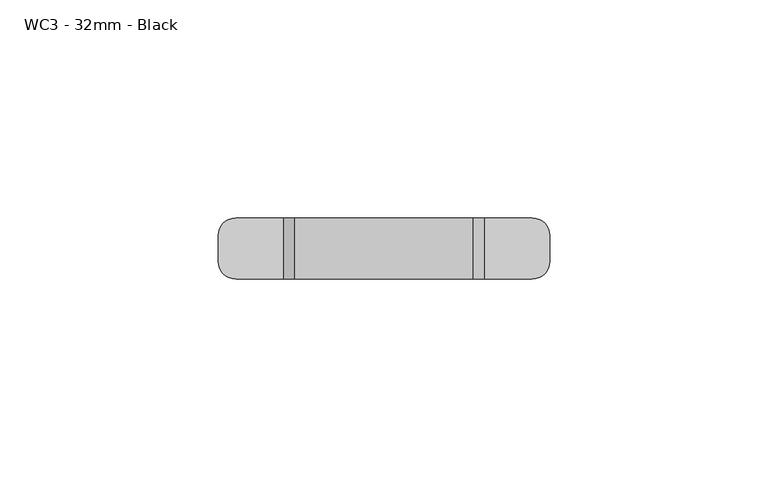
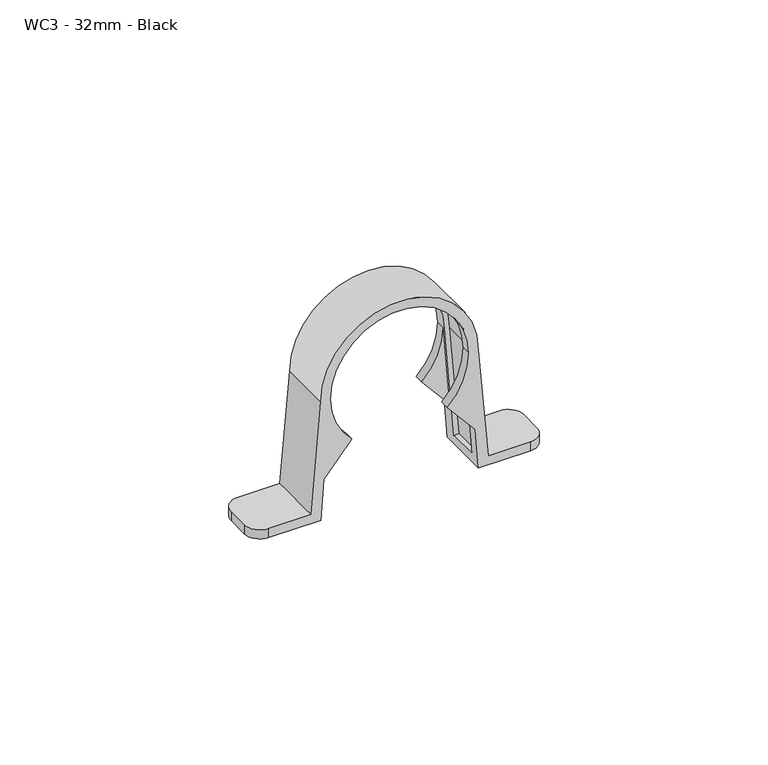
"""IFC4 building model written with IfcOpenShell, lengths in millimetres: pipe fitting geometry, MarleyPlumbingAndDrainage_PipeFitting_SaddlePipeClip : WC3 - 32mm - Black."""

from ifc_helpers import new_model, si_unit, frame, origin, place, context, project, spatial, polyline, circle_curve, source, transform, mapped, element, save
from ifc_brep_helpers import plane_surface, cylinder_surface, revolved_surface, advanced_brep


def wc3_32mm_black_cb145518(model_context):
    return source(origin(), model_context, "Body", "AdvancedBrep", [
        advanced_brep(
        [(5.7150936, -7.0, -30.0), (3.2150936, -7.0, 0.0), (-37.7849064, -7.0, 0.0), (-40.2849064, -7.0, -30.0), (-51.2849064, -7.0, -30.0), (-51.2849064, -7.0, -32.5), (-37.7849064, -7.0, -32.5), (-36.9459788, -7.0, -21.5939411), (-29.734806, -7.0, -13.0), (-35.2849064, -7.0, 0.0), (0.7150936, -7.0, 0.0), (-4.8350068, -7.0, -13.0), (2.376166, -7.0, -21.5939411), (3.2150936, -7.0, -32.5), (16.7150936, -7.0, -32.5), (16.7150936, -7.0, -30.0), (-40.2849064, 7.0, -30.0), (-37.7849064, 7.0, 0.0), (3.2150936, 7.0, 0.0), (5.7150936, 7.0, -30.0), (16.7150936, 7.0, -30.0), (16.7150936, 7.0, -32.5), (3.2150936, 7.0, -32.5), (2.376166, 7.0, -21.5939411), (-4.8350068, 7.0, -13.0), (0.7150936, 7.0, 0.0), (-35.2849064, 7.0, 0.0), (-29.734806, 7.0, -13.0), (-36.9459788, 7.0, -21.5939411), (-37.7849064, 7.0, -32.5), (-51.2849064, 7.0, -32.5), (-51.2849064, 7.0, -30.0), (-39.0349064, 3.8, -30.0), (-36.5349064, 3.8, 0.0), (-36.5349064, -4.5, 0.0), (-39.0349064, -4.5, -30.0), (1.9650936, 3.8, 0.0), (1.9650936, -4.5, 0.0), (4.4650936, 3.8, -30.0), (4.4650936, -4.5, -30.0), (5.7150936, -4.5, -30.0), (5.7150936, 3.8, -30.0), (3.2150936, 3.8, 0.0), (3.2150936, -4.5, 0.0), (-37.7849064, 3.8, 0.0), (-37.7849064, -4.5, 0.0), (-40.2849064, 3.8, -30.0), (-40.2849064, -4.5, -30.0), (-35.2849064, 3.8, 0.0), (0.7150936, 3.8, 0.0), (3.0227859, 3.8, -30.0), (-37.5925987, 3.8, -30.0), (20.7150936, 3.0, -32.5), (20.7150936, -3.0, -32.5), (-55.2849064, -3.0, -32.5), (-55.2849064, 3.0, -32.5), (-35.2849064, 4.5, 0.0), (-37.5925987, -4.5, -30.0), (-36.9459788, -4.5, -21.5939411), (-36.9459788, 4.5, -21.5939411), (0.7150936, 4.5, 0.0), (2.376166, 4.5, -21.5939411), (2.376166, -4.5, -21.5939411), (3.0227859, -4.5, -30.0), (-29.734806, 4.5, -13.0), (-4.8350068, 4.5, -13.0), (-35.2849064, -4.5, 0.0), (-29.734806, -4.5, -13.0), (-4.8350068, -4.5, -13.0), (0.7150936, -4.5, 0.0), (-55.2849064, 3.0, -30.0), (-55.2849064, -3.0, -30.0), (20.7150936, -3.0, -30.0), (20.7150936, 3.0, -30.0)],
        [
            (0, 1),
            (1, 2, circle_curve(frame((-17.2849064, -7.0, 0.0), z_axis=(0.0, -1.0, 0.0), x_axis=(1.0, 0.0, 0.0)), 20.5)),
            (2, 3),
            (3, 4),
            (4, 5),
            (5, 6),
            (6, 7),
            (7, 8),
            (8, 9, circle_curve(frame((-17.2849064, -7.0, 0.0), z_axis=(0.0, 1.0, 0.0), x_axis=(1.0, 0.0, 0.0)), 18.0)),
            (9, 10, circle_curve(frame((-17.2849064, -7.0, 0.0), z_axis=(0.0, 1.0, 0.0), x_axis=(1.0, 0.0, 0.0)), 18.0)),
            (10, 11, circle_curve(frame((-17.2849064, -7.0, 0.0), z_axis=(0.0, 1.0, 0.0), x_axis=(1.0, 0.0, 0.0)), 18.0)),
            (11, 12),
            (12, 13),
            (13, 14),
            (14, 15),
            (15, 0),
            (16, 17),
            (17, 18, circle_curve(frame((-17.2849064, 7.0, 0.0), z_axis=(0.0, 1.0, 0.0), x_axis=(1.0, 0.0, 0.0)), 20.5)),
            (18, 19),
            (19, 20),
            (20, 21),
            (21, 22),
            (22, 23),
            (23, 24),
            (24, 25, circle_curve(frame((-17.2849064, 7.0, 0.0), z_axis=(0.0, -1.0, 0.0), x_axis=(1.0, 0.0, 0.0)), 18.0)),
            (25, 26, circle_curve(frame((-17.2849064, 7.0, 0.0), z_axis=(0.0, -1.0, 0.0), x_axis=(1.0, 0.0, 0.0)), 18.0)),
            (26, 27, circle_curve(frame((-17.2849064, 7.0, 0.0), z_axis=(0.0, -1.0, 0.0), x_axis=(1.0, 0.0, 0.0)), 18.0)),
            (27, 28),
            (28, 29),
            (29, 30),
            (30, 31),
            (31, 16),
            (32, 33),
            (33, 34),
            (34, 35),
            (35, 32),
            (33, 36, circle_curve(frame((-17.2849064, 3.8, 0.0), z_axis=(0.0, 1.0, 0.0), x_axis=(1.0, 0.0, 0.0)), 19.25)),
            (36, 37),
            (37, 34, circle_curve(frame((-17.2849064, -4.5, 0.0), z_axis=(0.0, -1.0, 0.0), x_axis=(1.0, 0.0, 0.0)), 19.25)),
            (36, 38),
            (38, 39),
            (39, 37),
            (0, 40),
            (40, 41),
            (41, 19),
            (18, 42),
            (42, 43),
            (43, 1),
            (17, 44),
            (44, 45),
            (45, 2),
            (16, 46),
            (46, 47),
            (47, 3),
            (48, 49, circle_curve(frame((-17.2849064, 3.8, 0.0), z_axis=(0.0, 1.0, 0.0), x_axis=(1.0, 0.0, 0.0)), 18.0)),
            (49, 50),
            (50, 38),
            (32, 51),
            (51, 48),
            (21, 52, circle_curve(frame((16.7150936, 3.0, -32.5), z_axis=(0.0, 0.0, -1.0), x_axis=(1.0, 0.0, 0.0)), 4.0)),
            (52, 53),
            (53, 14, circle_curve(frame((16.7150936, -3.0, -32.5), z_axis=(0.0, 0.0, -1.0), x_axis=(1.0, 0.0, 0.0)), 4.0)),
            (13, 22),
            (5, 54, circle_curve(frame((-51.2849064, -3.0, -32.5), z_axis=(0.0, 0.0, -1.0), x_axis=(1.0, 0.0, 0.0)), 4.0)),
            (54, 55),
            (55, 30, circle_curve(frame((-51.2849064, 3.0, -32.5), z_axis=(0.0, 0.0, -1.0), x_axis=(1.0, 0.0, 0.0)), 4.0)),
            (29, 6),
            (56, 48),
            (51, 57),
            (57, 58),
            (58, 7),
            (28, 59),
            (59, 56),
            (56, 26),
            (25, 60),
            (60, 49),
            (60, 61),
            (61, 23),
            (12, 62),
            (62, 63),
            (63, 50),
            (59, 64),
            (64, 56, circle_curve(frame((-17.2849064, 4.5, 0.0), z_axis=(0.0, 1.0, 0.0), x_axis=(1.0, 0.0, 0.0)), 18.0)),
            (60, 65, circle_curve(frame((-17.2849064, 4.5, 0.0), z_axis=(0.0, 1.0, 0.0), x_axis=(1.0, 0.0, 0.0)), 18.0)),
            (65, 61),
            (27, 64),
            (24, 65),
            (66, 67, circle_curve(frame((-17.2849064, -4.5, 0.0), z_axis=(0.0, -1.0, 0.0), x_axis=(1.0, 0.0, 0.0)), 18.0)),
            (67, 58),
            (57, 35),
            (39, 63),
            (62, 68),
            (68, 69, circle_curve(frame((-17.2849064, -4.5, 0.0), z_axis=(0.0, -1.0, 0.0), x_axis=(1.0, 0.0, 0.0)), 18.0)),
            (69, 66, circle_curve(frame((-17.2849064, -4.5, 0.0), z_axis=(0.0, -1.0, 0.0), x_axis=(1.0, 0.0, 0.0)), 18.0)),
            (67, 8),
            (66, 9),
            (10, 69),
            (68, 11),
            (31, 70, circle_curve(frame((-51.2849064, 3.0, -30.0), z_axis=(0.0, 0.0, 1.0), x_axis=(1.0, 0.0, 0.0)), 4.0)),
            (70, 71),
            (71, 4, circle_curve(frame((-51.2849064, -3.0, -30.0), z_axis=(0.0, 0.0, 1.0), x_axis=(1.0, 0.0, 0.0)), 4.0)),
            (15, 72, circle_curve(frame((16.7150936, -3.0, -30.0), z_axis=(0.0, 0.0, 1.0), x_axis=(1.0, 0.0, 0.0)), 4.0)),
            (72, 73),
            (73, 20, circle_curve(frame((16.7150936, 3.0, -30.0), z_axis=(0.0, 0.0, 1.0), x_axis=(1.0, 0.0, 0.0)), 4.0)),
            (55, 70),
            (54, 71),
            (53, 72),
            (52, 73),
        ],
        [
            plane_surface(frame((-40.2849064, -7.0, -30.0), z_axis=(0.0, -1.0, 0.0), x_axis=(1.0, 0.0, 0.0))),
            plane_surface(frame((-40.2849064, 7.0, -30.0), z_axis=(0.0, 1.0, 0.0), x_axis=(-1.0, 0.0, 0.0))),
            plane_surface(frame((-39.0349064, -7.0, -30.0), z_axis=(0.9965457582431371, 0.0, -0.08304547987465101), x_axis=(0.0, 1.0, 0.0))),
            revolved_surface(polyline([(1.9650935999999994, 3.8, 0.0), (1.9650935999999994, -4.5, 0.0)]), (-17.2849064, 7.0, 0.0), (0.0, 1.0, 0.0)),
            plane_surface(frame((1.9650936, -7.0, 0.0), z_axis=(-0.996545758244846, 0.0, -0.08304547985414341), x_axis=(0.0, 1.0, 0.0))),
            plane_surface(frame((5.7150936, -7.0, -30.0), z_axis=(0.9965457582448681, 0.0, 0.08304547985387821), x_axis=(0.0, 1.0, 0.0))),
            cylinder_surface(frame((-17.2849064, 7.0, 0.0), z_axis=(0.0, -1.0, 0.0), x_axis=(1.0, 0.0, 0.0)), 20.5),
            plane_surface(frame((-37.7849064, -7.0, 0.0), z_axis=(-0.9965457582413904, 0.0, 0.08304547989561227), x_axis=(0.0, 1.0, 0.0))),
            plane_surface(frame((-37.7849064, 3.8, -32.5), z_axis=(0.0, -1.0, 0.0), x_axis=(1.0, 0.0, 0.0))),
            plane_surface(frame((-40.2849064, 3.8, -32.5), z_axis=(0.0, 0.0, -1.0), x_axis=(0.0, 1.0, 0.0))),
            plane_surface(frame((-37.7849064, 3.8, -32.5), z_axis=(0.9970544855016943, 0.0, -0.0766964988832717), x_axis=(0.0, 1.0, 0.0))),
            revolved_surface(polyline([(0.7150935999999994, 7.0, 0.0), (0.7150935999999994, 3.8, 0.0)]), (-17.2849064, 7.0, 0.0), (0.0, 1.0, 0.0)),
            plane_surface(frame((0.7150936, 3.8, 0.0), z_axis=(-0.9970544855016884, 0.0, -0.07669649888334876), x_axis=(0.0, 1.0, 0.0))),
            plane_surface(frame((-29.734806, 4.5, -13.0), z_axis=(0.0, -1.0, 0.0), x_axis=(0.6427876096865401, 0.0, 0.7660444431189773))),
            plane_surface(frame((-36.9459788, 4.5, -21.5939411), z_axis=(0.7660444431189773, 0.0, -0.6427876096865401), x_axis=(0.0, 1.0, 0.0))),
            revolved_surface(polyline([(0.7150935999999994, 7.0, 0.0), (0.7150935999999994, 4.5, 0.0)]), (-17.2849064, 7.0, 0.0), (0.0, 1.0, 0.0)),
            revolved_surface(polyline([(0.7150935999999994, 7.0, 0.0), (0.7150935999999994, 4.5, 0.0)]), (-17.2849064, 0.0, 0.0), (0.0, 1.0, 0.0)),
            plane_surface(frame((-4.8350068, 4.5, -13.0), z_axis=(-0.7660444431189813, 0.0, -0.6427876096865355), x_axis=(0.0, 1.0, 0.0))),
            plane_surface(frame((-29.734806, -4.5, -13.0), z_axis=(0.0, 1.0, 0.0), x_axis=(-0.6427876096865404, 0.0, -0.7660444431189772))),
            plane_surface(frame((-36.9459788, -7.0, -21.5939411), z_axis=(0.7660444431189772, 0.0, -0.6427876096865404), x_axis=(0.0, 1.0, 0.0))),
            revolved_surface(polyline([(0.7150935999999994, -4.5, 0.0), (0.7150935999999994, -7.0, 0.0)]), (-17.2849064, -4.5, 0.0), (0.0, 1.0, 0.0)),
            revolved_surface(polyline([(0.7150935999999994, -4.5, 0.0), (0.7150935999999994, -7.0, 0.0)]), (-17.2849064, 0.0, 0.0), (0.0, 1.0, 0.0)),
            plane_surface(frame((-4.8350068, -7.0, -13.0), z_axis=(-0.7660444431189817, 0.0, -0.6427876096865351), x_axis=(0.0, 1.0, 0.0))),
            plane_surface(frame((-51.2849064, 7.0, -30.0), z_axis=(0.0, 0.0, 1.0), x_axis=(-1.0, 0.0, 0.0))),
            cylinder_surface(frame((-51.2849064, 3.0, -32.5), z_axis=(0.0, 0.0, 1.0), x_axis=(1.0, 0.0, 0.0)), 4.0),
            plane_surface(frame((-55.2849064, 3.0, -30.0), z_axis=(-1.0, 0.0, 0.0), x_axis=(0.0, 0.0, -1.0))),
            cylinder_surface(frame((-51.2849064, -3.0, -32.5), z_axis=(0.0, 0.0, 1.0), x_axis=(1.0, 0.0, 0.0)), 4.0),
            cylinder_surface(frame((16.7150936, -3.0, -32.5), z_axis=(0.0, 0.0, 1.0), x_axis=(1.0, 0.0, 0.0)), 4.0),
            plane_surface(frame((20.7150936, -3.0, -30.0), z_axis=(1.0, 0.0, 0.0), x_axis=(0.0, 0.0, -1.0))),
            cylinder_surface(frame((16.7150936, 3.0, -32.5), z_axis=(0.0, 0.0, 1.0), x_axis=(1.0, 0.0, 0.0)), 4.0),
        ],
        [
            (0, [[1, 2, 3, 4, 5, 6, 7, 8, 9, 10, 11, 12, 13, 14, 15, 16]]),
            (1, [[17, 18, 19, 20, 21, 22, 23, 24, 25, 26, 27, 28, 29, 30, 31, 32]]),
            (2, [[33, 34, 35, 36]]),
            (3, [[37, 38, 39, -34]]),
            (4, [[40, 41, 42, -38]]),
            (5, [[-1, 43, 44, 45, -19, 46, 47, 48]]),
            (6, [[-2, -48, -47, -46, -18, 49, 50, 51]]),
            (7, [[-3, -51, -50, -49, -17, 52, 53, 54]]),
            (8, [[55, 56, 57, -40, -37, -33, 58, 59]]),
            (9, [[60, 61, 62, -14, 63, -22]]),
            (9, [[64, 65, 66, -30, 67, -6]]),
            (10, [[68, -59, 69, 70, 71, -7, -67, -29, 72, 73]]),
            (11, [[-55, -68, 74, -26, 75, 76]]),
            (12, [[-76, 77, 78, -23, -63, -13, 79, 80, 81, -56]]),
            (13, [[82, 83, -73]]),
            (13, [[84, 85, -77]]),
            (14, [[-28, 86, -82, -72]]),
            (15, [[-27, -74, -83, -86]]),
            (16, [[-25, 87, -84, -75]]),
            (17, [[-24, -78, -85, -87]]),
            (18, [[88, 89, -70, 90, -35, -39, -42, 91, -80, 92, 93, 94]]),
            (19, [[-8, -71, -89, 95]]),
            (20, [[-9, -95, -88, 96]]),
            (21, [[-11, 97, -93, 98]]),
            (22, [[-12, -98, -92, -79]]),
            (20, [[-10, -96, -94, -97]]),
            (23, [[-36, -90, -69, -58]]),
            (23, [[-41, -57, -81, -91]]),
            (23, [[99, 100, 101, -4, -54, -53, -52, -32]]),
            (23, [[102, 103, 104, -20, -45, -44, -43, -16]]),
            (24, [[-66, 105, -99, -31]]),
            (25, [[-65, 106, -100, -105]]),
            (26, [[-64, -5, -101, -106]]),
            (27, [[-62, 107, -102, -15]]),
            (28, [[-61, 108, -103, -107]]),
            (29, [[-60, -21, -104, -108]]),
        ],
    ),
    ])


if __name__ == "__main__":
    model = new_model("IFC4")
    model_context = context("Model", 3, world=origin())
    ifc_project = project(units=[si_unit("LENGTHUNIT", "METRE", prefix="MILLI")], contexts=[model_context])
    site = spatial("IfcSite", under=ifc_project)
    building = spatial("IfcBuilding", under=site)
    placement = place(None, origin())
    wc3_32mm_black_shape = wc3_32mm_black_cb145518(model_context)
    element("IfcPipeFitting", 1, ObjectType="MarleyPlumbingAndDrainage_PipeFitting_SaddlePipeClip : WC3 - 32mm - Black", at=placement, inside=building, context=model_context, shape_type="MappedRepresentation", body=[
        mapped(wc3_32mm_black_shape, transform((0.0, 0.0, 0.0), x_axis=(1.0, 0.0, 0.0), y_axis=(0.0, 1.0, 0.0), z_axis=(0.0, 0.0, 1.0))),
    ])
    save(model, "model.ifc")
